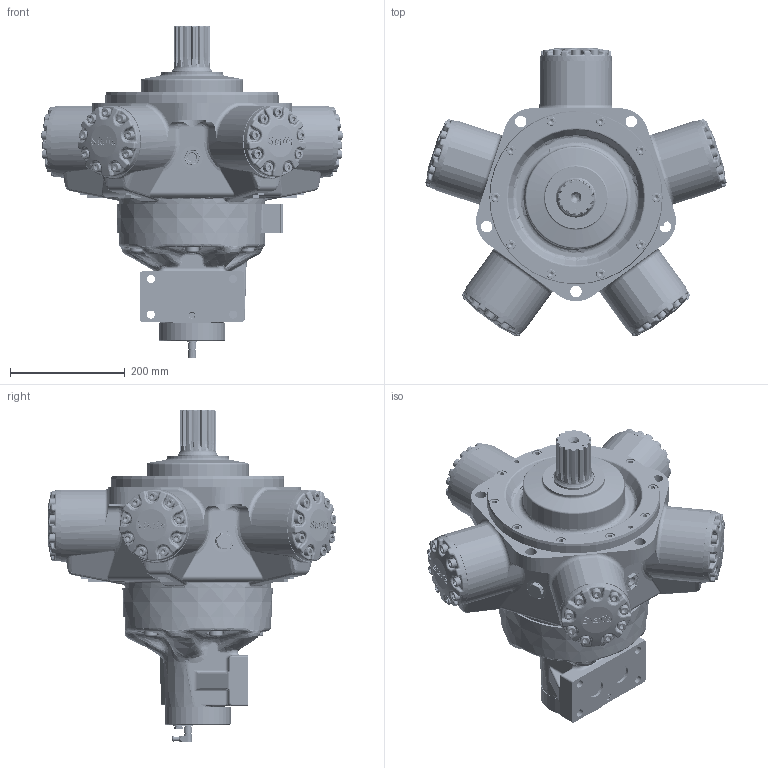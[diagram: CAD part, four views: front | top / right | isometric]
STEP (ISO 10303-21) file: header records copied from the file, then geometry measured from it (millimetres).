
FILE_DESCRIPTION(/* description */ (''),/* implementation_level */ '2;1');
FILE_NAME(/* name */ 'HMC080_S_SM3_X_Tk_82.stp',/* time_stamp */ '2025-07-24T11:05:48+01:00',/* author */ ('ccallanga'),/* organization */ (''),/* preprocessor_version */ 'ST-DEVELOPER v20',/* originating_system */ 'Autodesk Inventor 2024',/* authorisation */ '');
FILE_SCHEMA (('AUTOMOTIVE_DESIGN { 1 0 10303 214 3 1 1 }'));
Products named in the file (1): 017754 HMC080 WEBSITE ASSEMBLY_Simplify_1
Bounding box: 524.44 x 502.42 x 577.6 mm (x, y, z)
Volume: 29068022.6 mm3; surface area: 888351.2 mm2
Topology: 1 solids, 1 shells, 5343 faces, 12825 edges, 7492 vertices
Faces by surface type: bspline 1885, plane 1387, cylinder 1157, torus 577, sphere 185, cone 152
Full cylindrical faces by diameter (mm): 2.2 x4, 6.5 x1, 7 x1, 8.376 x2, 8.4 x1, 9.4 x1, 9.543 x1, 9.9 x1, 10.4 x1, 11.328 x1, 11.445 x2, 11.913 x4, 12 x1, 12.7 x4, 13 x1, 14 x4, 14.75 x1, 14.8 x1, 16 x55, 16.5 x45, 16.51 x1, 17 x10, 20 x9, 23.825 x5, 25.4 x5, 26.92 x2, 32 x2, 38.1 x3, 69.825 x1, 73.914 x1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
Entity records: 221592 total; most frequent: CARTESIAN_POINT 106053, ORIENTED_EDGE 25186, DIRECTION 19230, EDGE_CURVE 12593, AXIS2_PLACEMENT_3D 7591, VERTEX_POINT 7492, EDGE_LOOP 5611, STYLED_ITEM 5344
